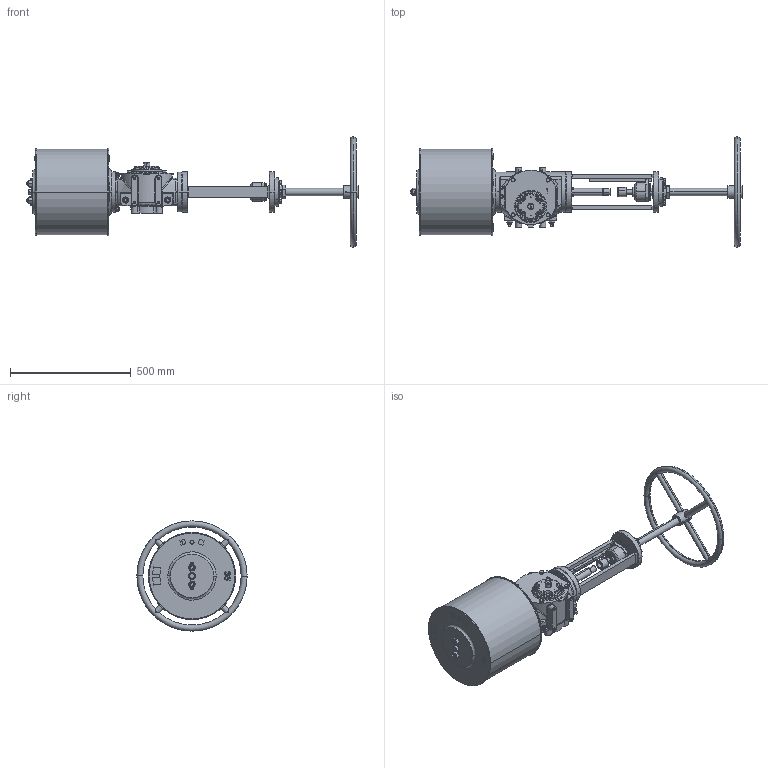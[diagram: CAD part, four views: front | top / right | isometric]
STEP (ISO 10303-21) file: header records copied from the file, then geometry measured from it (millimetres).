
FILE_DESCRIPTION (( 'STEP AP203' ), '1' );
FILE_NAME ('VTS1-350-MSD.STEP', '2023-01-01T07:45:27', ( '' ), ( '' ), 'SwSTEP 2.0', 'SolidWorks 2020', '' );
FILE_SCHEMA (( 'CONFIG_CONTROL_DESIGN' ));
Length unit declared in the file: millimetre
Products named in the file (1): VTS1-350-MSD
Bounding box: 1376.61 x 457 x 457 mm (x, y, z)
Volume: 41550331.9 mm3; surface area: 1593152.9 mm2
Topology: 3 solids, 26 shells, 2569 faces, 6605 edges, 4138 vertices
Faces by surface type: plane 1035, cylinder 755, cone 460, bspline 225, torus 66, sphere 28
Entity records: 104933 total; most frequent: CARTESIAN_POINT 46087, ORIENTED_EDGE 12974, DIRECTION 11264, EDGE_CURVE 6487, AXIS2_PLACEMENT_3D 4358, VERTEX_POINT 4138, EDGE_LOOP 2843, ADVANCED_FACE 2569
